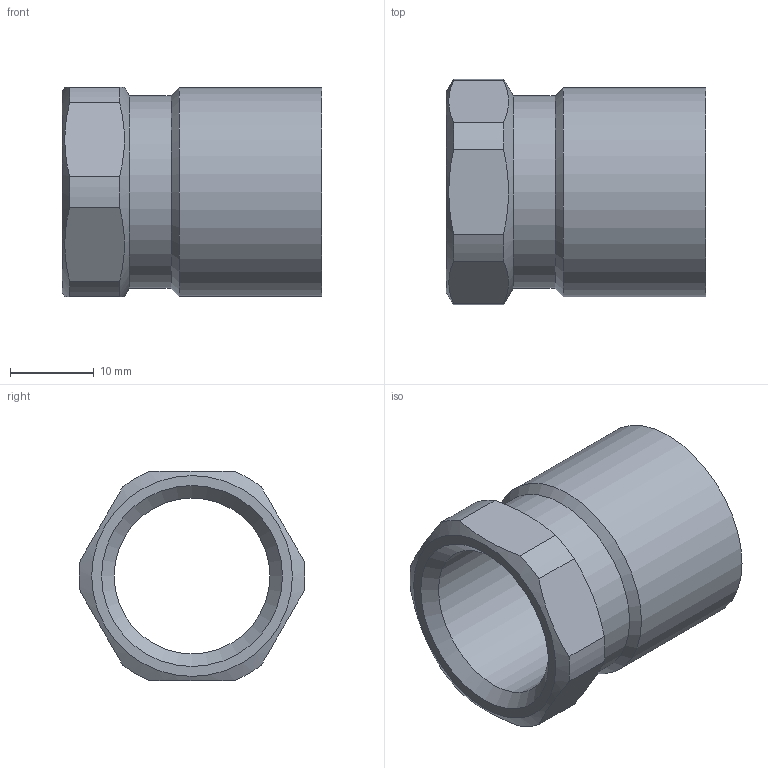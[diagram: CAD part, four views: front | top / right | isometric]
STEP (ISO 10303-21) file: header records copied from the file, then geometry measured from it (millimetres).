
FILE_DESCRIPTION((''),'2;1');
FILE_NAME('C:\Documents and Settings\pajchrowski\Desktop\STEP\14270_22-12(2).stp','2009-02-02T13:12:21',('pajchrowski'),(''),'Autodesk Inventor 2009','Autodesk Inventor 2009','');
FILE_SCHEMA(('AUTOMOTIVE_DESIGN { 1 0 10303 214 1 1 1 1 }'));
Length unit declared in the file: millimetre
Products named in the file (1): 14270_22-12(2)
Bounding box: 31 x 26.99 x 25 mm (x, y, z)
Volume: 4804.1 mm3; surface area: 4906.2 mm2
Topology: 1 solids, 1 shells, 23 faces, 56 edges, 36 vertices
Faces by surface type: cylinder 10, plane 9, cone 4
Full cylindrical faces by diameter (mm): 18.63 x1, 22 x1, 23 x1, 25 x1
Entity records: 640 total; most frequent: CARTESIAN_POINT 128, DIRECTION 104, ORIENTED_EDGE 92, AXIS2_PLACEMENT_3D 46, EDGE_CURVE 46, VERTEX_POINT 34, EDGE_LOOP 34, FACE_OUTER_BOUND 23
